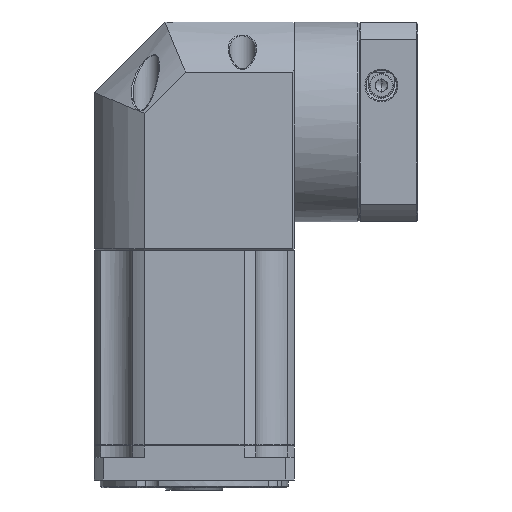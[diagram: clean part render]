
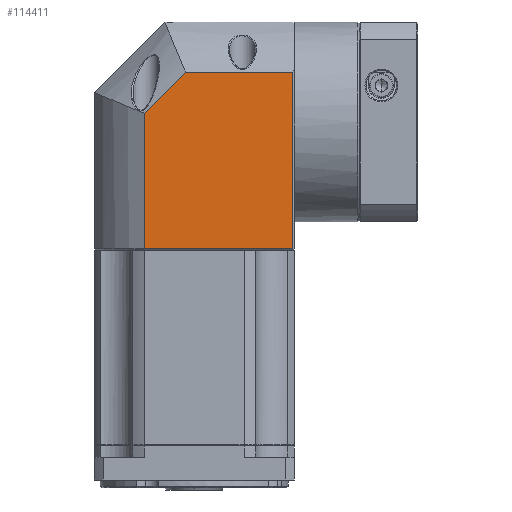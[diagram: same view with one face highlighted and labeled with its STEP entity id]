
A CAD part, front view. The second image highlights one B-rep face of the part: STEP entity #114411.
In plain terms, the highlighted planar face has unit normal (0, -1, 0).
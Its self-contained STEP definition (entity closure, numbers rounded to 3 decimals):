
#3537 = EDGE_CURVE ( 'NONE', #157252, #72085, #121710, .T. ) ;
#3757 = CARTESIAN_POINT ( 'NONE',  ( 47.032, 113.508, 58.635 ) ) ;
#12282 = DIRECTION ( 'NONE',  ( 1., 0., 0. ) ) ;
#16408 = VECTOR ( 'NONE', #82936, 1000. ) ;
#16909 = DIRECTION ( 'NONE',  ( 0., 0., -1. ) ) ;
#17011 = CARTESIAN_POINT ( 'NONE',  ( 47.532, 113.508, 58.635 ) ) ;
#17365 = VECTOR ( 'NONE', #81475, 1000. ) ;
#19262 = EDGE_LOOP ( 'NONE', ( #149548, #67531, #101845, #151633, #27653 ) ) ;
#24193 = LINE ( 'NONE', #3757, #128531 ) ;
#27653 = ORIENTED_EDGE ( 'NONE', *, *, #96288, .F. ) ;
#30172 = DIRECTION ( 'NONE',  ( -1., 0., 0. ) ) ;
#30647 = LINE ( 'NONE', #135259, #69495 ) ;
#42784 = CARTESIAN_POINT ( 'NONE',  ( 47.032, 113.508, -37.865 ) ) ;
#45345 = AXIS2_PLACEMENT_3D ( 'NONE', #17011, #108504, #30172 ) ;
#46170 = EDGE_CURVE ( 'NONE', #58450, #145182, #136348, .T. ) ;
#53256 = EDGE_CURVE ( 'NONE', #72085, #145182, #24193, .T. ) ;
#57194 = CARTESIAN_POINT ( 'NONE',  ( -16.181, 113.508, 58.635 ) ) ;
#58450 = VERTEX_POINT ( 'NONE', #80624 ) ;
#63142 = FACE_OUTER_BOUND ( 'NONE', #19262, .T. ) ;
#67531 = ORIENTED_EDGE ( 'NONE', *, *, #53256, .F. ) ;
#68703 = CARTESIAN_POINT ( 'NONE',  ( -16.181, 113.508, 19.818 ) ) ;
#69495 = VECTOR ( 'NONE', #70064, 1000. ) ;
#70064 = DIRECTION ( 'NONE',  ( 0.707, 0., 0.707 ) ) ;
#71265 = EDGE_CURVE ( 'NONE', #79335, #157252, #30647, .T. ) ;
#72085 = VERTEX_POINT ( 'NONE', #124249 ) ;
#79335 = VERTEX_POINT ( 'NONE', #68703 ) ;
#80624 = CARTESIAN_POINT ( 'NONE',  ( -16.181, 113.508, -37.865 ) ) ;
#81475 = DIRECTION ( 'NONE',  ( 1., 0., 0. ) ) ;
#82936 = DIRECTION ( 'NONE',  ( 0., 0., 1. ) ) ;
#85925 = LINE ( 'NONE', #57194, #16408 ) ;
#96288 = EDGE_CURVE ( 'NONE', #58450, #79335, #85925, .T. ) ;
#101845 = ORIENTED_EDGE ( 'NONE', *, *, #3537, .F. ) ;
#107947 = PLANE ( 'NONE',  #45345 ) ;
#108504 = DIRECTION ( 'NONE',  ( 0., 1., 0. ) ) ;
#114411 = ADVANCED_FACE ( 'NONE', ( #63142 ), #107947, .F. ) ;
#121710 = LINE ( 'NONE', #146562, #17365 ) ;
#124249 = CARTESIAN_POINT ( 'NONE',  ( 47.032, 113.508, 37.348 ) ) ;
#128531 = VECTOR ( 'NONE', #16909, 1000. ) ;
#135259 = CARTESIAN_POINT ( 'NONE',  ( -16.181, 113.508, 19.818 ) ) ;
#136348 = LINE ( 'NONE', #142597, #166822 ) ;
#142597 = CARTESIAN_POINT ( 'NONE',  ( 47.532, 113.508, -37.865 ) ) ;
#145182 = VERTEX_POINT ( 'NONE', #42784 ) ;
#146562 = CARTESIAN_POINT ( 'NONE',  ( 47.532, 113.508, 37.348 ) ) ;
#149548 = ORIENTED_EDGE ( 'NONE', *, *, #46170, .T. ) ;
#151633 = ORIENTED_EDGE ( 'NONE', *, *, #71265, .F. ) ;
#157252 = VERTEX_POINT ( 'NONE', #157604 ) ;
#157604 = CARTESIAN_POINT ( 'NONE',  ( 1.349, 113.508, 37.348 ) ) ;
#166822 = VECTOR ( 'NONE', #12282, 1000. ) ;
